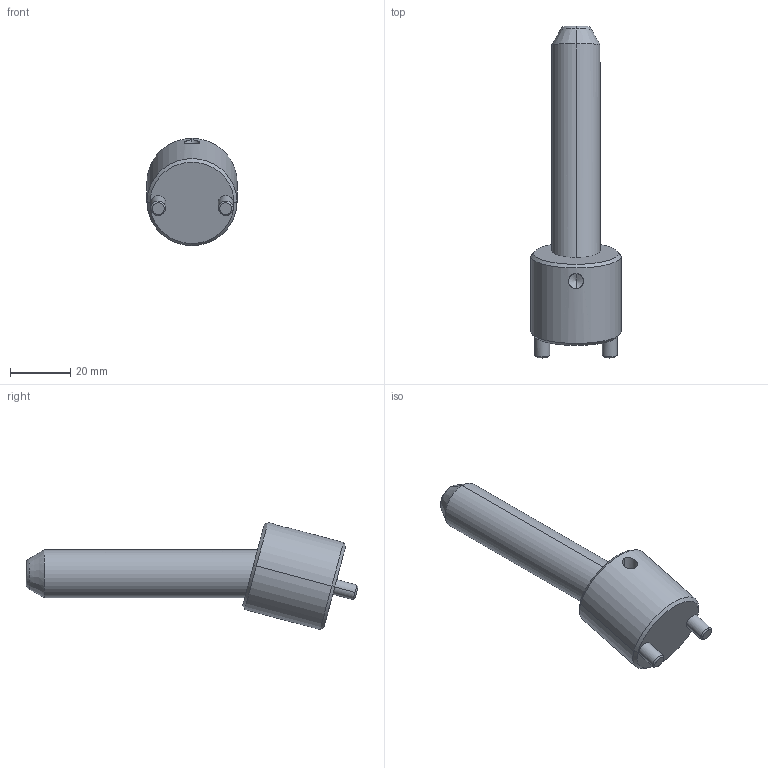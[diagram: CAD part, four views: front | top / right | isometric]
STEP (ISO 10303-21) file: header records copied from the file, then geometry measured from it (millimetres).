
FILE_DESCRIPTION(('CATIA V5 STEP Exchange'),'2;1');
FILE_NAME('C:\Users\Raffaele\Desktop\3D BOLEX\3D FILES CF BOLEX\19-INCLINED ASSEMBLY REF_CI\CI1516075.stp','2019-06-21T14:12:48+00:00',('none'),('none'),'CATIA Version 5 Release 20 GA (IN-10)','CATIA V5 STEP AP203','none');
FILE_SCHEMA(('CONFIG_CONTROL_DESIGN'));
Length unit declared in the file: millimetre
Products named in the file (1): CI1516075
Assembly tree (2 placements, depth 2):
  CI1516075
    #58
    #590
Bounding box: 30 x 110.58 x 35.71 mm (x, y, z)
Volume: 34329.6 mm3; surface area: 10705.7 mm2
Topology: 2 solids, 2 shells, 39 faces, 82 edges, 47 vertices
Faces by surface type: cone 14, cylinder 14, plane 7, torus 4
Entity records: 1482 total; most frequent: CARTESIAN_POINT 623, ORIENTED_EDGE 160, DIRECTION 145, EDGE_CURVE 80, AXIS2_PLACEMENT_3D 72, VERTEX_POINT 47, EDGE_LOOP 43, ADVANCED_FACE 39
